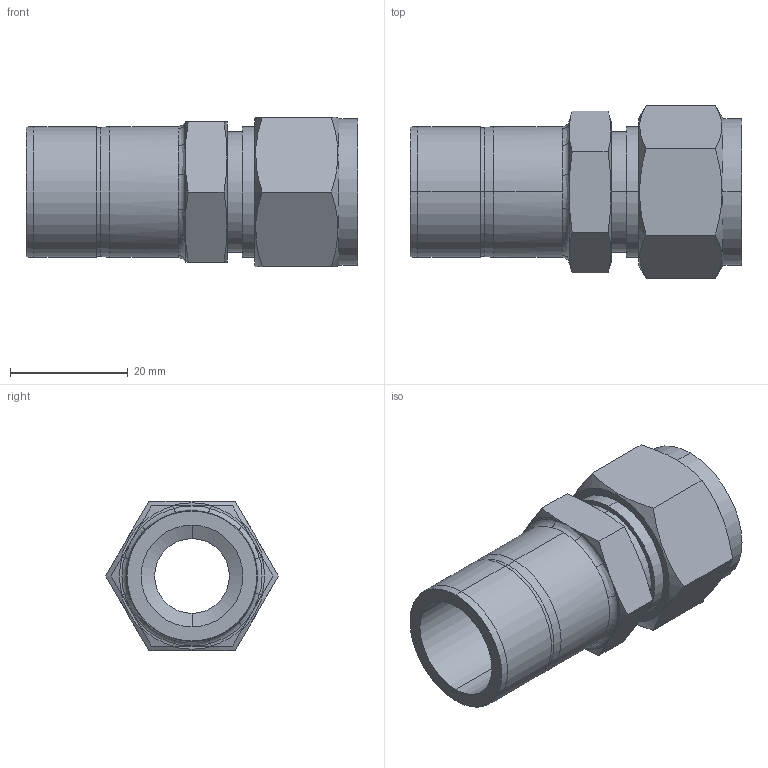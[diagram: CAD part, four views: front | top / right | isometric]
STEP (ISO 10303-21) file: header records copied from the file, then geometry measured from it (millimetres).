
FILE_DESCRIPTION (( 'STEP AP203' ), '1' );
FILE_NAME ('DRE10-14 SS.STEP', '2009-09-08T08:38:34', ( ' ' ), ( '' ), 'SwSTEP 2.0', 'SolidWorks 2008', '' );
FILE_SCHEMA (( 'CONFIG_CONTROL_DESIGN' ));
Length unit declared in the file: millimetre
Products named in the file (1): DRE10-14 SS
Bounding box: 56.3 x 29.33 x 25.4 mm (x, y, z)
Volume: 13466 mm3; surface area: 8214 mm2
Topology: 1 solids, 1 shells, 78 faces, 176 edges, 104 vertices
Faces by surface type: cone 24, plane 24, cylinder 18, bspline 6, torus 6
Entity records: 2601 total; most frequent: CARTESIAN_POINT 845, ORIENTED_EDGE 352, DIRECTION 348, EDGE_CURVE 176, AXIS2_PLACEMENT_3D 147, VERTEX_POINT 104, EDGE_LOOP 84, ADVANCED_FACE 78
